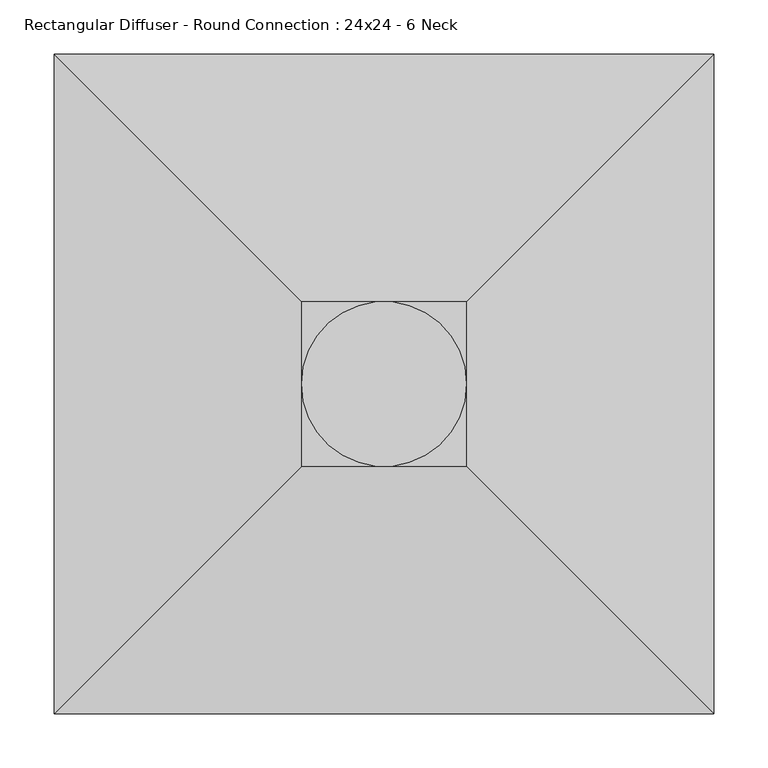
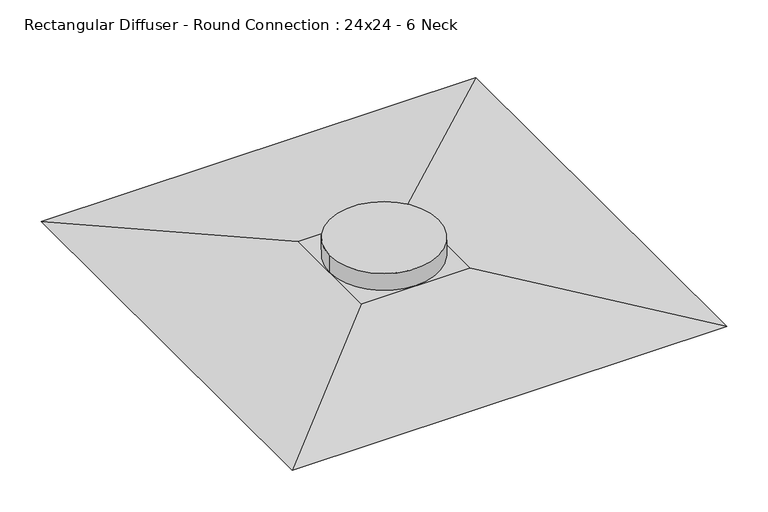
"""IFC4 building model written with IfcOpenShell, lengths in millimetres: air terminal geometry, Rectangular Diffuser - Round Connection : 24x24 - 6 Neck."""

from ifc_helpers import new_model, si_unit, point, frame, origin, origin_2d, place, context, project, spatial, circle_curve, trimmed, segment, composite_curve, outline, extrude, faceted_brep, source, transform, mapped, element, save


def rectangular_diffuser_round_connection_24x24_6_neck_a21b6d18(model_context):
    return source(origin(), model_context, "Body", "SolidModel", [
        faceted_brep([(76.2, 76.2, 28.575), (-76.2, 76.2, 28.575), (-76.2, -76.2, 28.575), (76.2, -76.2, 28.575), (304.8, 304.8, 0.0), (304.8, -304.8, 0.0), (-304.8, -304.8, 0.0), (-304.8, 304.8, 0.0)], [[[0, 1, 2, 3]], [[4, 5, 6, 7]], [[4, 7, 1, 0]], [[7, 6, 2, 1]], [[6, 5, 3, 2]], [[5, 4, 0, 3]]]),
        extrude(outline(composite_curve([segment(trimmed(circle_curve(origin_2d(), 76.2), [point((-76.2, 0.0))], [point((76.2, 0.0))], False, "CARTESIAN"), True, "CONTINUOUS"), segment(trimmed(circle_curve(origin_2d(), 76.2), [point((76.2, 0.0))], [point((-76.2, 0.0))], False, "CARTESIAN"), True, "CONTINUOUS")], self_intersect=False)), frame((0.0, 0.0, 28.575), z_axis=(0.0, 0.0, 1.0), x_axis=(1.0, 0.0, 0.0)), (0.0, 0.0, 1.0), 25.4),
    ])


if __name__ == "__main__":
    model = new_model("IFC4")
    model_context = context("Model", 3, world=origin())
    ifc_project = project(units=[si_unit("LENGTHUNIT", "METRE", prefix="MILLI")], contexts=[model_context])
    site = spatial("IfcSite", under=ifc_project)
    building = spatial("IfcBuilding", under=site)
    placement = place(None, origin())
    rectangular_diffuser_round_connection_24x24_6_neck_shape = rectangular_diffuser_round_connection_24x24_6_neck_a21b6d18(model_context)
    element("IfcAirTerminal", 1, ObjectType="Rectangular Diffuser - Round Connection : 24x24 - 6 Neck", at=placement, inside=building, context=model_context, shape_type="MappedRepresentation", body=[
        mapped(rectangular_diffuser_round_connection_24x24_6_neck_shape, transform((0.0, 0.0, 0.0), x_axis=(1.0, 0.0, 0.0), y_axis=(0.0, 1.0, 0.0), z_axis=(0.0, 0.0, 1.0))),
    ])
    save(model, "model.ifc")
